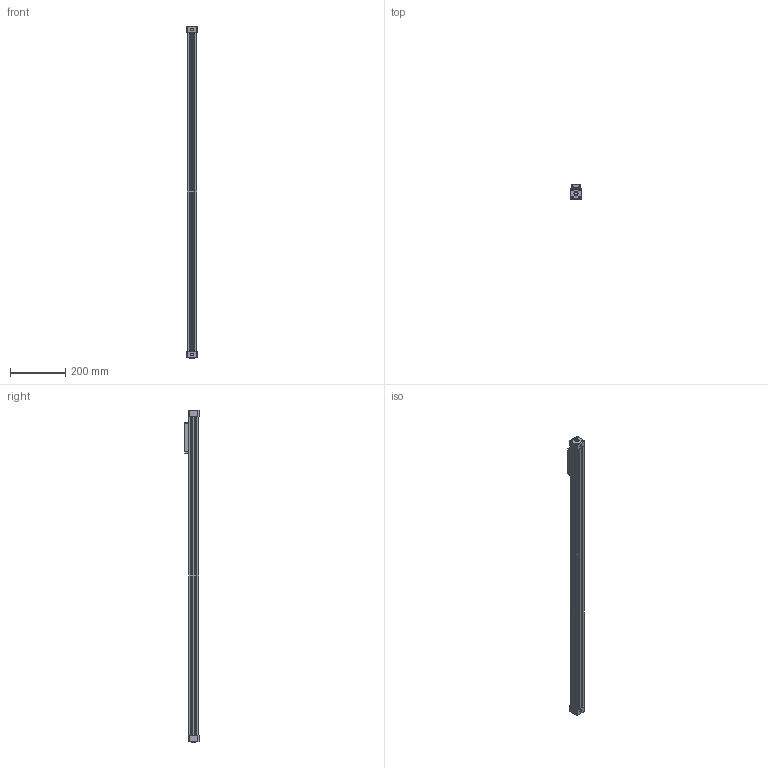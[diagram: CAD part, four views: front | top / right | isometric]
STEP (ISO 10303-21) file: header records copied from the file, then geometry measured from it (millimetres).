
FILE_DESCRIPTION (( 'STEP AP203' ), '1' );
FILE_NAME ('RLF25.1000.STEP', '2005-12-19T16:40:18', ( 'Vesta Automation srl' ), ( 'Vesta Automation srl' ), 'SwSTEP 2.0', 'SolidWorks 2005187', '' );
FILE_SCHEMA (( 'CONFIG_CONTROL_DESIGN' ));
Length unit declared in the file: millimetre
Products named in the file (6): SEALING BAND-RLFØ25_STROKE 1000; RLF25.1000; FRONT END CAP-RLFØ25; REAR END CAP-RLFØ25; BARREL-RLFØ25_STROKE 1000; CARRIAGE-RLFØ25
Assembly tree (5 placements, depth 2):
  RLF25.1000
    BARREL-RLFØ25_STROKE 1000
    CARRIAGE-RLFØ25
    REAR END CAP-RLFØ25
    FRONT END CAP-RLFØ25
    SEALING BAND-RLFØ25_STROKE 1000
Bounding box: 40.03 x 52.5 x 1202 mm (x, y, z)
Volume: 1009605.5 mm3; surface area: 369149.8 mm2
Topology: 5 solids, 7 shells, 1167 faces, 2678 edges, 1594 vertices
Faces by surface type: cone 540, plane 468, cylinder 159
Entity records: 32944 total; most frequent: DIRECTION 5904, CARTESIAN_POINT 5443, ORIENTED_EDGE 5348, EDGE_CURVE 2674, AXIS2_PLACEMENT_3D 2055, VECTOR 1794, LINE 1794, VERTEX_POINT 1594
